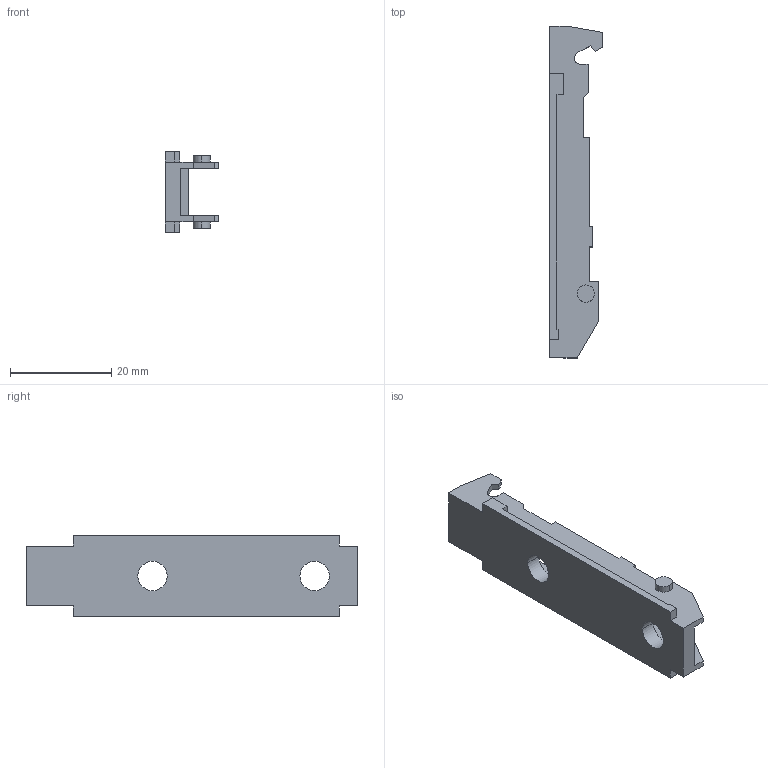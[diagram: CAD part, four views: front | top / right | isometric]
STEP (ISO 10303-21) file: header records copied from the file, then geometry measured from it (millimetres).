
FILE_DESCRIPTION (( 'STEP AP214' ), '1' );
FILE_NAME ('1D_Linearmontageplatte 20_32_Spax_Euro_H00.step', '2010-11-18T10:17:19', ( 'grass' ), ( '' ), 'SwSTEP 2.0', 'SolidWorks 2010', '' );
FILE_SCHEMA (( 'AUTOMOTIVE_DESIGN' ));
Length unit declared in the file: millimetre
Products named in the file (1): 1D_Linearmontageplatte 20_32_Spax_Euro_H00
Bounding box: 10.5 x 65.5 x 16 mm (x, y, z)
Volume: 3565.1 mm3; surface area: 3828.7 mm2
Topology: 1 solids, 1 shells, 76 faces, 216 edges, 144 vertices
Faces by surface type: plane 66, cylinder 10
Entity records: 2482 total; most frequent: CARTESIAN_POINT 437, ORIENTED_EDGE 432, DIRECTION 390, EDGE_CURVE 216, LINE 196, VECTOR 196, VERTEX_POINT 144, AXIS2_PLACEMENT_3D 97
